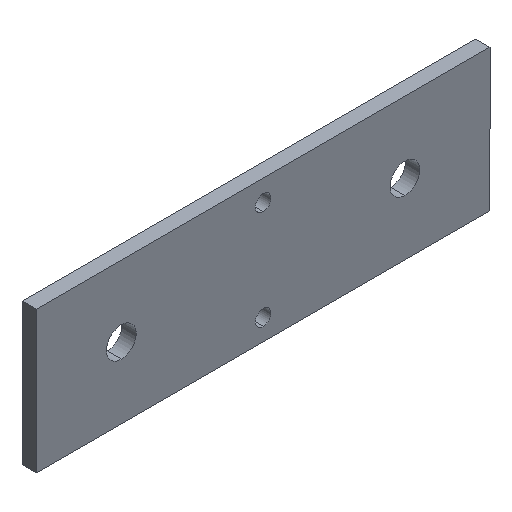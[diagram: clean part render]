
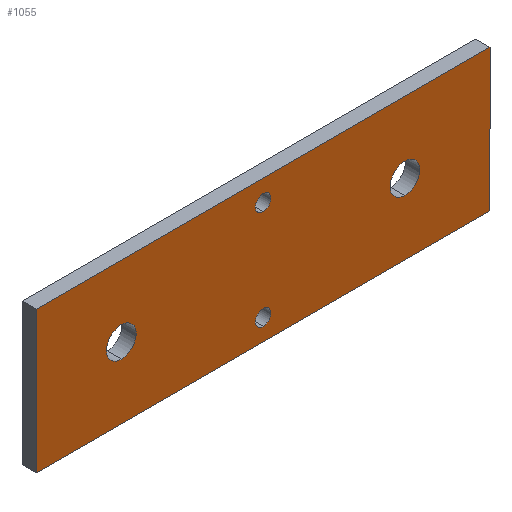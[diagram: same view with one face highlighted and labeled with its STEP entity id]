
A CAD part, isometric view. The second image highlights one B-rep face of the part: STEP entity #1055.
In plain terms, the highlighted planar face has unit normal (0, -1, 0).
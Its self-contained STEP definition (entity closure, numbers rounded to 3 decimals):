
#3 = VERTEX_POINT ( 'NONE', #414 ) ;
#5 = AXIS2_PLACEMENT_3D ( 'NONE', #323, #944, #407 ) ;
#16 = DIRECTION ( 'NONE',  ( 0., 0., -1. ) ) ;
#21 = VERTEX_POINT ( 'NONE', #1144 ) ;
#23 = CARTESIAN_POINT ( 'NONE',  ( 0., -1., -4.05 ) ) ;
#25 = CARTESIAN_POINT ( 'NONE',  ( 0., -1., -2.95 ) ) ;
#45 = EDGE_CURVE ( 'NONE', #3, #884, #1258, .T. ) ;
#94 = CARTESIAN_POINT ( 'NONE',  ( -16., -1., -5. ) ) ;
#107 = EDGE_CURVE ( 'NONE', #1099, #810, #464, .T. ) ;
#115 = DIRECTION ( 'NONE',  ( 0., 0., 1. ) ) ;
#122 = VECTOR ( 'NONE', #1167, 1000. ) ;
#137 = FACE_BOUND ( 'NONE', #1022, .T. ) ;
#146 = AXIS2_PLACEMENT_3D ( 'NONE', #1007, #675, #368 ) ;
#156 = ORIENTED_EDGE ( 'NONE', *, *, #595, .F. ) ;
#177 = CARTESIAN_POINT ( 'NONE',  ( 10., -1., 1.05 ) ) ;
#191 = CIRCLE ( 'NONE', #622, 1.05 ) ;
#217 = DIRECTION ( 'NONE',  ( 0., 0., -1. ) ) ;
#219 = ORIENTED_EDGE ( 'NONE', *, *, #501, .F. ) ;
#287 = CIRCLE ( 'NONE', #550, 0.55 ) ;
#299 = ORIENTED_EDGE ( 'NONE', *, *, #45, .F. ) ;
#323 = CARTESIAN_POINT ( 'NONE',  ( 10., -1., 0. ) ) ;
#327 = CARTESIAN_POINT ( 'NONE',  ( 16., -1., 5. ) ) ;
#333 = CARTESIAN_POINT ( 'NONE',  ( -10., -1., -1.05 ) ) ;
#357 = ORIENTED_EDGE ( 'NONE', *, *, #1248, .T. ) ;
#368 = DIRECTION ( 'NONE',  ( 0., 0., 1. ) ) ;
#381 = CIRCLE ( 'NONE', #445, 0.55 ) ;
#382 = CARTESIAN_POINT ( 'NONE',  ( 0., -1., 2.95 ) ) ;
#386 = CARTESIAN_POINT ( 'NONE',  ( -10., -1., 1.05 ) ) ;
#388 = ORIENTED_EDGE ( 'NONE', *, *, #1287, .T. ) ;
#393 = ORIENTED_EDGE ( 'NONE', *, *, #878, .T. ) ;
#396 = VERTEX_POINT ( 'NONE', #177 ) ;
#403 = EDGE_CURVE ( 'NONE', #816, #3, #1261, .T. ) ;
#407 = DIRECTION ( 'NONE',  ( 0., 0., 1. ) ) ;
#414 = CARTESIAN_POINT ( 'NONE',  ( 16., -1., -5. ) ) ;
#419 = CARTESIAN_POINT ( 'NONE',  ( 0., -1., -3.5 ) ) ;
#445 = AXIS2_PLACEMENT_3D ( 'NONE', #544, #1181, #217 ) ;
#449 = CARTESIAN_POINT ( 'NONE',  ( -10., -1., 0. ) ) ;
#451 = FACE_OUTER_BOUND ( 'NONE', #1048, .T. ) ;
#464 = CIRCLE ( 'NONE', #146, 1.05 ) ;
#501 = EDGE_CURVE ( 'NONE', #1112, #1183, #643, .T. ) ;
#518 = DIRECTION ( 'NONE',  ( 0., 0., 1. ) ) ;
#544 = CARTESIAN_POINT ( 'NONE',  ( 0., -1., 3.5 ) ) ;
#545 = EDGE_CURVE ( 'NONE', #787, #816, #1305, .T. ) ;
#550 = AXIS2_PLACEMENT_3D ( 'NONE', #1298, #1179, #673 ) ;
#553 = ORIENTED_EDGE ( 'NONE', *, *, #107, .F. ) ;
#563 = FACE_BOUND ( 'NONE', #637, .T. ) ;
#595 = EDGE_CURVE ( 'NONE', #884, #787, #1083, .T. ) ;
#619 = CIRCLE ( 'NONE', #5, 1.05 ) ;
#622 = AXIS2_PLACEMENT_3D ( 'NONE', #1389, #842, #518 ) ;
#637 = EDGE_LOOP ( 'NONE', ( #357, #393 ) ) ;
#638 = VECTOR ( 'NONE', #722, 1000. ) ;
#643 = CIRCLE ( 'NONE', #1132, 0.55 ) ;
#673 = DIRECTION ( 'NONE',  ( 0., 0., 1. ) ) ;
#675 = DIRECTION ( 'NONE',  ( 0., -1., 0. ) ) ;
#687 = VECTOR ( 'NONE', #115, 1000. ) ;
#690 = AXIS2_PLACEMENT_3D ( 'NONE', #1349, #813, #1335 ) ;
#718 = DIRECTION ( 'NONE',  ( 0., 1., 0. ) ) ;
#722 = DIRECTION ( 'NONE',  ( -1., 0., 0. ) ) ;
#731 = VECTOR ( 'NONE', #1070, 1000. ) ;
#735 = EDGE_CURVE ( 'NONE', #1326, #1011, #1134, .T. ) ;
#764 = ORIENTED_EDGE ( 'NONE', *, *, #403, .F. ) ;
#766 = CARTESIAN_POINT ( 'NONE',  ( 0., -1., 3.5 ) ) ;
#777 = FACE_BOUND ( 'NONE', #1320, .T. ) ;
#787 = VERTEX_POINT ( 'NONE', #1390 ) ;
#810 = VERTEX_POINT ( 'NONE', #333 ) ;
#813 = DIRECTION ( 'NONE',  ( 0., 1., 0. ) ) ;
#816 = VERTEX_POINT ( 'NONE', #883 ) ;
#842 = DIRECTION ( 'NONE',  ( 0., 1., 0. ) ) ;
#878 = EDGE_CURVE ( 'NONE', #21, #396, #191, .T. ) ;
#883 = CARTESIAN_POINT ( 'NONE',  ( 16., -1., 5. ) ) ;
#884 = VERTEX_POINT ( 'NONE', #94 ) ;
#888 = CARTESIAN_POINT ( 'NONE',  ( -16., -1., 5. ) ) ;
#889 = DIRECTION ( 'NONE',  ( 0., -1., 0. ) ) ;
#944 = DIRECTION ( 'NONE',  ( 0., 1., 0. ) ) ;
#972 = DIRECTION ( 'NONE',  ( 0., 0., 1. ) ) ;
#986 = EDGE_LOOP ( 'NONE', ( #219, #1123 ) ) ;
#996 = EDGE_CURVE ( 'NONE', #1183, #1112, #381, .T. ) ;
#998 = AXIS2_PLACEMENT_3D ( 'NONE', #449, #889, #972 ) ;
#1005 = CARTESIAN_POINT ( 'NONE',  ( 0., -1., 4.05 ) ) ;
#1007 = CARTESIAN_POINT ( 'NONE',  ( -10., -1., 0. ) ) ;
#1011 = VERTEX_POINT ( 'NONE', #25 ) ;
#1022 = EDGE_LOOP ( 'NONE', ( #388, #1311 ) ) ;
#1048 = EDGE_LOOP ( 'NONE', ( #299, #764, #1129, #156 ) ) ;
#1055 = ADVANCED_FACE ( 'NONE', ( #777, #1098, #137, #563, #451 ), #1078, .F. ) ;
#1062 = CIRCLE ( 'NONE', #998, 1.05 ) ;
#1070 = DIRECTION ( 'NONE',  ( 1., 0., 0. ) ) ;
#1078 = PLANE ( 'NONE',  #690 ) ;
#1083 = LINE ( 'NONE', #888, #687 ) ;
#1098 = FACE_BOUND ( 'NONE', #986, .T. ) ;
#1099 = VERTEX_POINT ( 'NONE', #386 ) ;
#1112 = VERTEX_POINT ( 'NONE', #1005 ) ;
#1123 = ORIENTED_EDGE ( 'NONE', *, *, #996, .F. ) ;
#1129 = ORIENTED_EDGE ( 'NONE', *, *, #545, .F. ) ;
#1131 = ORIENTED_EDGE ( 'NONE', *, *, #1300, .F. ) ;
#1132 = AXIS2_PLACEMENT_3D ( 'NONE', #766, #1312, #16 ) ;
#1134 = CIRCLE ( 'NONE', #1272, 0.55 ) ;
#1144 = CARTESIAN_POINT ( 'NONE',  ( 10., -1., -1.05 ) ) ;
#1147 = DIRECTION ( 'NONE',  ( 0., 0., 1. ) ) ;
#1148 = CARTESIAN_POINT ( 'NONE',  ( -16., -1., -5. ) ) ;
#1167 = DIRECTION ( 'NONE',  ( 0., 0., -1. ) ) ;
#1179 = DIRECTION ( 'NONE',  ( 0., 1., 0. ) ) ;
#1181 = DIRECTION ( 'NONE',  ( 0., -1., 0. ) ) ;
#1183 = VERTEX_POINT ( 'NONE', #382 ) ;
#1209 = CARTESIAN_POINT ( 'NONE',  ( 0., -1., 5. ) ) ;
#1248 = EDGE_CURVE ( 'NONE', #396, #21, #619, .T. ) ;
#1258 = LINE ( 'NONE', #1148, #638 ) ;
#1261 = LINE ( 'NONE', #327, #122 ) ;
#1272 = AXIS2_PLACEMENT_3D ( 'NONE', #419, #718, #1147 ) ;
#1287 = EDGE_CURVE ( 'NONE', #1011, #1326, #287, .T. ) ;
#1298 = CARTESIAN_POINT ( 'NONE',  ( 0., -1., -3.5 ) ) ;
#1300 = EDGE_CURVE ( 'NONE', #810, #1099, #1062, .T. ) ;
#1305 = LINE ( 'NONE', #1209, #731 ) ;
#1311 = ORIENTED_EDGE ( 'NONE', *, *, #735, .T. ) ;
#1312 = DIRECTION ( 'NONE',  ( 0., -1., 0. ) ) ;
#1320 = EDGE_LOOP ( 'NONE', ( #553, #1131 ) ) ;
#1326 = VERTEX_POINT ( 'NONE', #23 ) ;
#1335 = DIRECTION ( 'NONE',  ( 0., 0., 1. ) ) ;
#1349 = CARTESIAN_POINT ( 'NONE',  ( 0., -1., 0. ) ) ;
#1389 = CARTESIAN_POINT ( 'NONE',  ( 10., -1., 0. ) ) ;
#1390 = CARTESIAN_POINT ( 'NONE',  ( -16., -1., 5. ) ) ;
